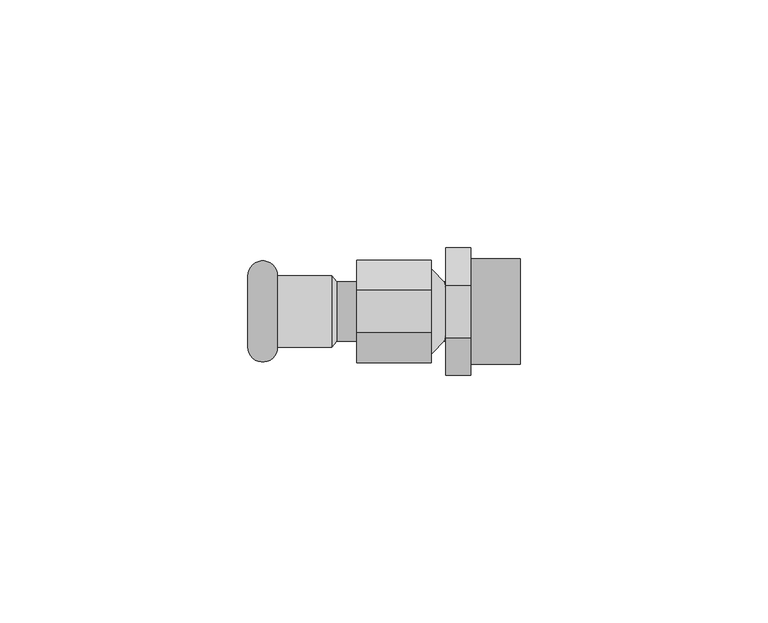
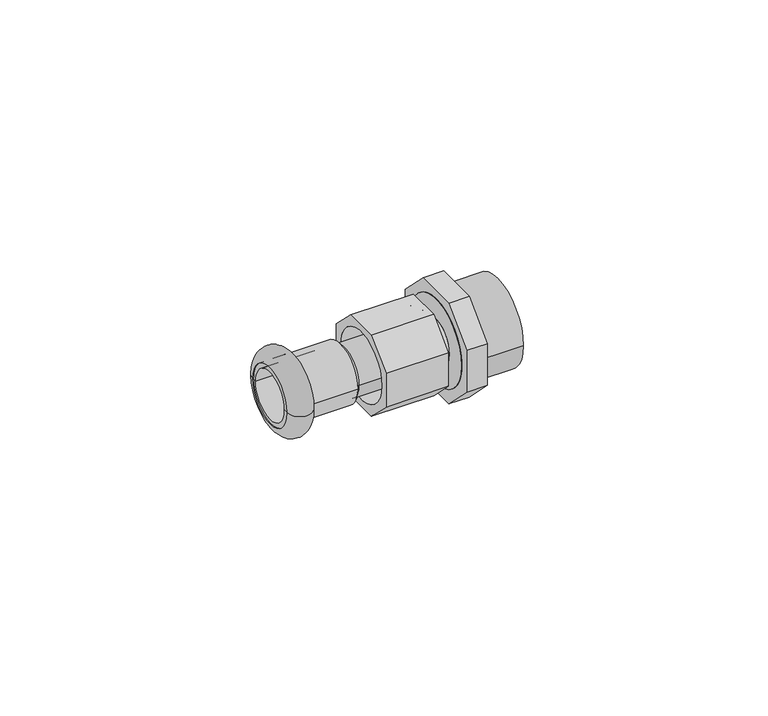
"""IFC4 building model written with IfcOpenShell, lengths in millimetres: pipe fitting geometry."""

import ifcopenshell
import ifcopenshell.guid

model = None  # the IFC model being written
_history = None  # IfcOwnerHistory: only IFC2X3 demands one
_inside = {}  # id of a spatial element -> (the spatial element, [elements in it])
_under = {}  # id of a project, library or spatial element -> (it, [spatial elements below it])
_declared = {}  # id of a project -> (the project, [libraries it declares])
_typed = {}  # id of a type object -> (the type object, [elements of that type])
_made_of = {}  # id of a material, layer set ... -> (it, [elements and type objects made of it])


def new_model(schema):
    """Start an empty IFC model of exactly this schema.

    Asked for "IFC4X3", IfcOpenShell would pick the latest addendum, in which some entities
    have other attributes; the version numbers below select the first issue.
    IFC2X3 requires an IfcOwnerHistory on every rooted entity: one is made here for all.
    """
    global model, _history
    if schema == "IFC4X3":
        model = ifcopenshell.file(schema_version=(4, 3, 0, 0))
    else:
        model = ifcopenshell.file(schema=schema)
    _inside.clear()
    _under.clear()
    _declared.clear()
    _typed.clear()
    _made_of.clear()
    _history = None
    if model.schema == "IFC2X3":
        org = make("IfcOrganization", Name="unknown")
        user = make(
            "IfcPersonAndOrganization",
            ThePerson=make("IfcPerson", FamilyName="unknown"),
            TheOrganization=org,
        )
        app = make(
            "IfcApplication",
            ApplicationDeveloper=org,
            Version="unknown",
            ApplicationFullName="unknown",
            ApplicationIdentifier="unknown",
        )
        _history = make(
            "IfcOwnerHistory",
            OwningUser=user,
            OwningApplication=app,
            ChangeAction="ADDED",
            CreationDate=0,
        )
    return model


def make(cls, **values):
    """One entity of the class cls with the attributes given. An attribute that is None is left unset."""
    return model.create_entity(
        cls, **{name: value for name, value in values.items() if value is not None}
    )


def rooted(cls, **values):
    """An entity with a GlobalId (a new one), such as an element, a storey or a relation."""
    return make(cls, GlobalId=ifcopenshell.guid.new(), OwnerHistory=_history, **values)


def si_unit(unit_type, name, prefix=None):
    """IfcSIUnit, for example si_unit("LENGTHUNIT", "METRE", prefix="MILLI")."""
    return make("IfcSIUnit", UnitType=unit_type, Prefix=prefix, Name=name)


def assignment(units):
    """IfcUnitAssignment: the units of a project."""
    return None if units is None else make("IfcUnitAssignment", Units=units)


def point(xyz):
    """IfcCartesianPoint."""
    return None if xyz is None else make("IfcCartesianPoint", Coordinates=xyz)


def direction(xyz):
    """IfcDirection."""
    return None if xyz is None else make("IfcDirection", DirectionRatios=xyz)


def frame(location, z_axis=None, x_axis=None):
    """IfcAxis2Placement3D, a coordinate frame: its origin and axes. An axis left out is left unset."""
    return make(
        "IfcAxis2Placement3D",
        Location=point(location),
        Axis=direction(z_axis),
        RefDirection=direction(x_axis),
    )


def frame_2d(location, x_axis=None):
    """IfcAxis2Placement2D, a coordinate frame in the plane: its origin and x axis."""
    return make(
        "IfcAxis2Placement2D", Location=point(location), RefDirection=direction(x_axis)
    )


def origin():
    """The frame at (0, 0, 0) with its axes left unset."""
    return frame((0.0, 0.0, 0.0))


def origin_2d():
    """The frame at (0, 0) in the plane with its x axis left unset."""
    return frame_2d((0.0, 0.0))


def place(relative_to, where):
    """IfcLocalPlacement: puts the frame where relative to a parent placement (None: the world)."""
    return make(
        "IfcLocalPlacement", PlacementRelTo=relative_to, RelativePlacement=where
    )


def context(
    kind, dimensions, precision=None, world=None, true_north=None, identifier=None
):
    """IfcGeometricRepresentationContext, for example the 3D "Model" context."""
    return make(
        "IfcGeometricRepresentationContext",
        ContextIdentifier=identifier,
        ContextType=kind,
        CoordinateSpaceDimension=dimensions,
        Precision=precision,
        WorldCoordinateSystem=world,
        TrueNorth=true_north,
    )


def project(units=None, contexts=None):
    """IfcProject with its units and contexts."""
    return rooted(
        "IfcProject",
        Name="project",
        RepresentationContexts=contexts,
        UnitsInContext=assignment(units),
    )


def spatial(cls, under=None, at=None, **own):
    """A site, building, storey or space (cls), placed at a placement, below another one or the project."""
    s = rooted(cls, ObjectPlacement=at, **own)
    if under is not None:
        _under.setdefault(under.id(), (under, []))[1].append(s)
    return s


def polyline(points):
    """IfcPolyline through the points."""
    return make("IfcPolyline", Points=[point(p) for p in points])


def circle_curve(where, radius):
    """IfcCircle in the frame where."""
    return make("IfcCircle", Position=where, Radius=radius)


def ellipse_curve(where, semi_axis1, semi_axis2):
    """IfcEllipse in the frame where."""
    return make(
        "IfcEllipse", Position=where, SemiAxis1=semi_axis1, SemiAxis2=semi_axis2
    )


def trimmed(basis, trim1, trim2, sense, master):
    """IfcTrimmedCurve: the piece of a basis curve between two trims."""
    return make(
        "IfcTrimmedCurve",
        BasisCurve=basis,
        Trim1=trim1,
        Trim2=trim2,
        SenseAgreement=sense,
        MasterRepresentation=master,
    )


def segment(curve, same_sense, transition):
    """IfcCompositeCurveSegment."""
    return make(
        "IfcCompositeCurveSegment",
        Transition=transition,
        SameSense=same_sense,
        ParentCurve=curve,
    )


def composite_curve(segments, self_intersect=None):
    """IfcCompositeCurve: segments joined end to end."""
    return make("IfcCompositeCurve", Segments=segments, SelfIntersect=self_intersect)


def outline(outer, holes=None, kind="AREA"):
    """IfcArbitraryClosedProfileDef: a profile drawn as a closed curve; with holes, ...WithVoids."""
    if holes is None:
        return make("IfcArbitraryClosedProfileDef", ProfileType=kind, OuterCurve=outer)
    return make(
        "IfcArbitraryProfileDefWithVoids",
        ProfileType=kind,
        OuterCurve=outer,
        InnerCurves=holes,
    )


def extrude(swept, where, along, depth):
    """IfcExtrudedAreaSolid: the profile swept, set in the frame where, extruded along a direction by depth."""
    return make(
        "IfcExtrudedAreaSolid",
        SweptArea=swept,
        Position=where,
        ExtrudedDirection=direction(along),
        Depth=depth,
    )


def shape(context_of_items, identifier, shape_type, items):
    """IfcShapeRepresentation: the items that make up one representation, for example the "Body"."""
    return make(
        "IfcShapeRepresentation",
        ContextOfItems=context_of_items,
        RepresentationIdentifier=identifier,
        RepresentationType=shape_type,
        Items=items,
    )


def source(mapping_origin, context_of_items, identifier, shape_type, items):
    """IfcRepresentationMap: a shape defined once, which mapped items show again and again."""
    return make(
        "IfcRepresentationMap",
        MappingOrigin=mapping_origin,
        MappedRepresentation=shape(context_of_items, identifier, shape_type, items),
    )


def transform(
    local_origin,
    x_axis=None,
    y_axis=None,
    z_axis=None,
    scale=None,
    scale2=None,
    scale3=None,
    uniform=True,
):
    """IfcCartesianTransformationOperator3D, or its non-uniform kind. x_axis, y_axis, z_axis: its Axis1, 2, 3."""
    if uniform:
        return make(
            "IfcCartesianTransformationOperator3D",
            Axis1=direction(x_axis),
            Axis2=direction(y_axis),
            LocalOrigin=point(local_origin),
            Scale=scale,
            Axis3=direction(z_axis),
        )
    return make(
        "IfcCartesianTransformationOperator3DnonUniform",
        Axis1=direction(x_axis),
        Axis2=direction(y_axis),
        LocalOrigin=point(local_origin),
        Scale=scale,
        Axis3=direction(z_axis),
        Scale2=scale2,
        Scale3=scale3,
    )


def mapped(mapping_source, mapping_target):
    """IfcMappedItem: shows the shape of a source again, moved by a transform."""
    return make(
        "IfcMappedItem", MappingSource=mapping_source, MappingTarget=mapping_target
    )


def made_of(thing, what):
    """Note that an element or type object is made of a material, layer set ...; save() writes the relation."""
    if what is not None:
        _made_of.setdefault(what.id(), (what, []))[1].append(thing)
    return thing


def element(
    cls,
    number,
    at=None,
    inside=None,
    cuts=None,
    type_object=None,
    material=None,
    context=None,
    identifier="Body",
    shape_type=None,
    held_by="IfcProductDefinitionShape",
    body=None,
    shapes=None,
    **own,
):
    """One element of the class cls, such as IfcWall. Its Tag is "e" and its number.

    at: its placement. inside: the storey or other place that contains it. cuts: it is an
    opening in that element (IfcRelVoidsElement). A single representation is given by context,
    identifier, shape_type and body (its items); several are given by shapes. held_by: the class
    of the entity that holds the representations. save() writes the other relations.
    """
    e = rooted(cls, Tag="e%d" % number, ObjectPlacement=at, **own)
    if body is not None:
        shapes = [shape(context, identifier, shape_type, body)]
    if shapes is not None:
        e.Representation = make(held_by, Representations=shapes)
    if inside is not None:
        _inside.setdefault(inside.id(), (inside, []))[1].append(e)
    if cuts is not None:
        rooted(
            "IfcRelVoidsElement", RelatingBuildingElement=cuts, RelatedOpeningElement=e
        )
    if type_object is not None:
        _typed.setdefault(type_object.id(), (type_object, []))[1].append(e)
    return made_of(e, material)


def aggregate(whole, parts):
    """IfcRelAggregates: a whole, such as a stair, and the parts it consists of."""
    return rooted("IfcRelAggregates", RelatingObject=whole, RelatedObjects=parts)


def save(model, path):
    """Write the relations noted so far, then the file.

    IfcRelAggregates (storeys below a building ...), IfcRelContainedInSpatialStructure (elements
    in a storey), IfcRelDefinesByType, IfcRelAssociatesMaterial and IfcRelDeclares: one each for
    every whole, place, type object, material and project.
    """
    for whole, parts in _under.values():
        aggregate(whole, parts)
    for where, things in _inside.values():
        rooted(
            "IfcRelContainedInSpatialStructure",
            RelatedElements=things,
            RelatingStructure=where,
        )
    for kind, things in _typed.values():
        rooted("IfcRelDefinesByType", RelatedObjects=things, RelatingType=kind)
    for what, things in _made_of.values():
        rooted("IfcRelAssociatesMaterial", RelatedObjects=things, RelatingMaterial=what)
    for by, libraries in _declared.values():
        rooted("IfcRelDeclares", RelatingContext=by, RelatedDefinitions=libraries)
    model.write(path)


def plane_surface(at):
    """IfcPlane: the flat surface through the origin of the frame at, square to its z axis."""
    return make("IfcPlane", Position=at)


def cylinder_surface(at, radius):
    """IfcCylindricalSurface: all points at the distance radius from the z axis of the frame at."""
    return make("IfcCylindricalSurface", Position=at, Radius=radius)


def revolved_surface(curve, axis_point, axis_direction):
    """IfcSurfaceOfRevolution: the curve turned about the line through axis_point along axis_direction."""
    return make(
        "IfcSurfaceOfRevolution",
        SweptCurve=make("IfcArbitraryOpenProfileDef", ProfileType="CURVE", Curve=curve),
        AxisPosition=make("IfcAxis1Placement", Location=point(axis_point), Axis=direction(axis_direction)),
    )


def advanced_brep(points, edges, surfaces, faces):
    """IfcAdvancedBrep: a solid bounded by faces that lie on surfaces and meet in shared edges.

    An edge is (start, end): straight between two places in points (the first is 0);
    or (start, end, curve); or (start, end, curve, False) where it runs against its curve.
    A face is (place in surfaces, loops), or (place, loops, False) where it looks against
    its surface's normal. A loop lists edges by number (the first is 1), with a minus sign
    where the edge is run from its end to its start. The first loop is the outer one.
    """
    corners = [point(p) for p in points]
    vertices = [make("IfcVertexPoint", VertexGeometry=c) for c in corners]
    made = []
    for start, end, *more in edges:
        made.append(
            make(
                "IfcEdgeCurve",
                EdgeStart=vertices[start],
                EdgeEnd=vertices[end],
                EdgeGeometry=more[0] if more else make("IfcPolyline", Points=[corners[start], corners[end]]),
                SameSense=more[1] if len(more) > 1 else True,
            )
        )
    hull = []
    for where, loops, *sense in faces:
        bounds = []
        for j, loop in enumerate(loops):
            ring = [make("IfcOrientedEdge", EdgeElement=made[abs(k) - 1], Orientation=k > 0) for k in loop]
            bounds.append(
                make(
                    "IfcFaceOuterBound" if j == 0 else "IfcFaceBound",
                    Bound=make("IfcEdgeLoop", EdgeList=ring),
                    Orientation=True,
                )
            )
        hull.append(make("IfcAdvancedFace", Bounds=bounds, FaceSurface=surfaces[where], SameSense=sense[0] if sense else True))
    return make("IfcAdvancedBrep", Outer=make("IfcClosedShell", CfsFaces=hull))


def pipe_fitting_c629bbde(model_context):
    return source(origin(), model_context, "Body", "SolidModel", [
        advanced_brep(
        [(-7.6666667, -10.3811183, 4.3), (-7.6666667, -4.3, 10.3811183), (-7.6666667, 4.3, 10.3811183), (-7.6666667, 10.3811183, 4.3), (-7.6666667, 10.3811183, -4.3), (-7.6666667, 4.3, -10.3811183), (-7.6666667, -4.3, -10.3811183), (-7.6666667, -10.3811183, -4.3), (-7.6666667, 8.6, 0.0), (-7.6666667, -8.6, 0.0), (7.3333333, -10.3811183, 4.3), (7.3333333, -10.3811183, -4.3), (7.3333333, -4.3, -10.3811183), (7.3333333, 4.3, -10.3811183), (7.3333333, 10.3811183, -4.3), (7.3333333, 10.3811183, 4.3), (7.3333333, 4.3, 10.3811183), (7.3333333, -4.3, 10.3811183), (7.3333333, 8.6288231, 0.0), (7.3333333, -8.6288231, 0.0), (7.3333333, 8.6, 0.0), (7.3333333, -8.6, 0.0), (7.3333333, 5.6288231, 0.0), (7.3333333, -5.6288231, 0.0), (10.3333333, 5.6288231, 0.0), (10.3333333, -5.6288231, 0.0)],
        [
            (0, 1),
            (1, 2),
            (2, 3),
            (3, 4),
            (4, 5),
            (5, 6),
            (6, 7),
            (7, 0),
            (8, 9, circle_curve(frame((-7.6666667, 0.0, 0.0), z_axis=(1.0, 0.0, 0.0), x_axis=(0.0, -1.0, 0.0)), 8.6)),
            (9, 8, circle_curve(frame((-7.6666667, 0.0, 0.0), z_axis=(1.0, 0.0, 0.0), x_axis=(0.0, -1.0, 0.0)), 8.6)),
            (10, 11),
            (11, 12),
            (12, 13),
            (13, 14),
            (14, 15),
            (15, 16),
            (16, 17),
            (17, 10),
            (18, 19, circle_curve(frame((7.3333333, 0.0, 0.0), z_axis=(-1.0, 0.0, 0.0), x_axis=(0.0, -1.0, 0.0)), 8.6288231)),
            (19, 18, circle_curve(frame((7.3333333, 0.0, 0.0), z_axis=(-1.0, 0.0, 0.0), x_axis=(0.0, 1.0, 0.0)), 8.6288231)),
            (8, 20),
            (20, 21, circle_curve(frame((7.3333333, 0.0, 0.0), z_axis=(1.0, 0.0, 0.0), x_axis=(0.0, -1.0, 0.0)), 8.6)),
            (21, 9),
            (21, 20, circle_curve(frame((7.3333333, 0.0, 0.0), z_axis=(1.0, 0.0, 0.0), x_axis=(0.0, -1.0, 0.0)), 8.6)),
            (0, 10),
            (17, 1),
            (16, 2),
            (15, 3),
            (14, 4),
            (13, 5),
            (12, 6),
            (11, 7),
            (22, 23, circle_curve(frame((7.3333333, 0.0, 0.0), z_axis=(1.0, 0.0, 0.0), x_axis=(0.0, 1.0, 0.0)), 5.6288231)),
            (23, 22, circle_curve(frame((7.3333333, 0.0, 0.0), z_axis=(1.0, 0.0, 0.0), x_axis=(0.0, -1.0, 0.0)), 5.6288231)),
            (24, 25, circle_curve(frame((10.3333333, 0.0, 0.0), z_axis=(-1.0, 0.0, 0.0), x_axis=(0.0, -1.0, 0.0)), 5.6288231)),
            (25, 19),
            (18, 24),
            (23, 25),
            (24, 22),
            (25, 24, circle_curve(frame((10.3333333, 0.0, 0.0), z_axis=(-1.0, 0.0, 0.0), x_axis=(0.0, 1.0, 0.0)), 5.6288231)),
        ],
        [
            plane_surface(frame((-7.6666667, -8.6, 0.0), z_axis=(-1.0, 0.0, 0.0), x_axis=(0.0, 0.0, -1.0))),
            plane_surface(frame((7.3333333, -8.6, 0.0), z_axis=(1.0, 0.0, 0.0), x_axis=(0.0, 0.0, 1.0))),
            revolved_surface(polyline([(7.3333333, -8.6, 0.0), (-7.6666667, -8.6, 0.0)]), (7.3333333, 0.0, 0.0), (1.0, 0.0, 0.0)),
            plane_surface(frame((-7.6666667, -10.3811183, 4.3), z_axis=(0.0, -0.7071067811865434, 0.7071067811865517), x_axis=(1.0, 0.0, 0.0))),
            plane_surface(frame((-7.6666667, -4.3, 10.3811183), z_axis=(0.0, 0.0, 1.0), x_axis=(1.0, 0.0, 0.0))),
            plane_surface(frame((-7.6666667, 4.3, 10.3811183), z_axis=(0.0, 0.7071067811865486, 0.7071067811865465), x_axis=(1.0, 0.0, 0.0))),
            plane_surface(frame((-7.6666667, 10.3811183, 4.3), z_axis=(0.0, 1.0, 0.0), x_axis=(1.0, 0.0, 0.0))),
            plane_surface(frame((-7.6666667, 10.3811183, -4.3), z_axis=(0.0, 0.7071067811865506, -0.7071067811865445), x_axis=(1.0, 0.0, 0.0))),
            plane_surface(frame((-7.6666667, 4.3, -10.3811183), z_axis=(0.0, 0.0, -1.0), x_axis=(1.0, 0.0, 0.0))),
            plane_surface(frame((-7.6666667, -4.3, -10.3811183), z_axis=(0.0, -0.7071067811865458, -0.7071067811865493), x_axis=(1.0, 0.0, 0.0))),
            plane_surface(frame((-7.6666667, -10.3811183, -4.3), z_axis=(0.0, -1.0, 0.0), x_axis=(1.0, 0.0, 0.0))),
            plane_surface(frame((7.3333333, 0.0, 0.0), z_axis=(-1.0, 0.0, 0.0), x_axis=(0.0, 1.0, 0.0))),
            revolved_surface(polyline([(7.3333333, -8.6288231, 0.0), (10.3333333, -5.6288231, 0.0)]), (7.3333333, 0.0, 0.0), (1.0, 0.0, 0.0)),
            revolved_surface(polyline([(10.3333333, -5.6288231, 0.0), (7.3333333, -5.6288231, 0.0)]), (7.3333333, 0.0, 0.0), (1.0, 0.0, 0.0)),
            revolved_surface(polyline([(7.3333333, 8.6288231, 0.0), (10.3333333, 5.6288231, 0.0)]), (7.3333333, 0.0, 0.0), (1.0, 0.0, 0.0)),
            revolved_surface(polyline([(10.3333333, 5.6288231, 0.0), (7.3333333, 5.6288231, 0.0)]), (7.3333333, 0.0, 0.0), (1.0, 0.0, 0.0)),
        ],
        [
            (0, [[1, 2, 3, 4, 5, 6, 7, 8], [9, 10]]),
            (1, [[11, 12, 13, 14, 15, 16, 17, 18], [19, 20]]),
            (2, [[-9, 21, 22, 23]]),
            (2, [[-10, -23, 24, -21]]),
            (3, [[-1, 25, -18, 26]]),
            (4, [[-2, -26, -17, 27]]),
            (5, [[-3, -27, -16, 28]]),
            (6, [[-4, -28, -15, 29]]),
            (7, [[-5, -29, -14, 30]]),
            (8, [[-6, -30, -13, 31]]),
            (9, [[-7, -31, -12, 32]]),
            (10, [[-8, -32, -11, -25]]),
            (11, [[-22, -24], [33, 34]]),
            (12, [[35, 36, -19, 37]]),
            (13, [[-34, 38, -35, 39]]),
            (14, [[-36, 40, -37, -20]]),
            (15, [[-33, -39, -40, -38]]),
        ],
    ),
        extrude(outline(composite_curve([segment(trimmed(circle_curve(origin_2d(), 10.65), [point((-10.65, 0.0))], [point((10.65, 0.0))], False, "CARTESIAN"), True, "CONTINUOUS"), segment(trimmed(circle_curve(origin_2d(), 10.65), [point((10.65, 0.0))], [point((-10.65, 0.0))], False, "CARTESIAN"), True, "CONTINUOUS")], self_intersect=False)), frame((10.3333333, 0.0, 0.0), z_axis=(1.0, 0.0, 0.0), x_axis=(0.0, 1.0, 0.0)), (0.0, 0.0, 1.0), 15.0),
        extrude(outline(polyline([(12.8556872, 5.325), (12.8556872, -5.325), (5.325, -12.8556872), (-5.325, -12.8556872), (-12.8556872, -5.325), (-12.8556872, 5.325), (-5.325, 12.8556872), (5.325, 12.8556872), (12.8556872, 5.325)]), holes=[composite_curve([segment(trimmed(circle_curve(origin_2d(), 10.65), [point((-10.65, 0.0))], [point((10.65, 0.0))], True, "CARTESIAN"), True, "CONTINUOUS"), segment(trimmed(circle_curve(origin_2d(), 10.65), [point((10.65, 0.0))], [point((-10.65, 0.0))], True, "CARTESIAN"), True, "CONTINUOUS")], self_intersect=False)]), frame((10.3333333, 0.0, 0.0), z_axis=(1.0, 0.0, 0.0), x_axis=(0.0, 1.0, 0.0)), (0.0, 0.0, 1.0), 5.0),
        advanced_brep(
        [(-29.6666667, 7.2, 0.0), (-29.6666667, -7.2, 0.0), (-23.665374, -7.2, 0.0), (-23.665374, 7.2, 0.0)],
        [
            (0, 1, circle_curve(frame((-29.6666667, 0.0, 0.0), z_axis=(-1.0, 0.0, 0.0), x_axis=(0.0, -1.0, 0.0)), 7.2)),
            (1, 2),
            (2, 3, circle_curve(frame((-23.665374, 0.0, 0.0), z_axis=(1.0, 0.0, 0.0), x_axis=(0.0, -1.0, 0.0)), 7.2)),
            (3, 0),
            (1, 0, circle_curve(frame((-29.6666667, 0.0, 0.0), z_axis=(-1.0, 0.0, 0.0), x_axis=(0.0, -1.0, 0.0)), 7.2)),
            (3, 2, circle_curve(frame((-23.665374, 0.0, 0.0), z_axis=(1.0, 0.0, 0.0), x_axis=(0.0, -1.0, 0.0)), 7.2)),
            (2, 1, circle_curve(frame((-26.6660203, -7.2, 0.0), z_axis=(0.0, 0.0, -1.0), x_axis=(-1.0, 0.0, 0.0)), 3.0006464)),
            (0, 3, circle_curve(frame((-26.6660203, 7.2, 0.0), z_axis=(0.0, 0.0, -1.0), x_axis=(-1.0, 0.0, 0.0)), 3.0006464)),
        ],
        [
            revolved_surface(polyline([(-23.665374, -7.2, 0.0), (-29.6666667, -7.2, 0.0)]), (-12.6666667, 0.0, 0.0), (1.0, 0.0, 0.0)),
            revolved_surface(trimmed(ellipse_curve(frame((-26.6660203, -7.2, 0.0), z_axis=(0.0, 0.0, 1.0), x_axis=(-1.0, 0.0, 0.0)), 3.0006464, 3.0006464), [point((-29.6666667, -7.2, 0.0))], [point((-23.665374, -7.2, 0.0))], True, "CARTESIAN"), (-12.6666667, 0.0, 0.0), (1.0, 0.0, 0.0)),
        ],
        [
            (0, [[1, 2, 3, 4]]),
            (0, [[5, -4, 6, -2]]),
            (1, [[-3, 7, -1, 8]]),
            (1, [[-6, -8, -5, -7]]),
        ],
    ),
        advanced_brep(
        [(-29.6666667, 6.0, 0.0), (-29.6666667, -6.0, 0.0), (-11.6666667, -6.0, 0.0), (-11.6666667, 6.0, 0.0), (-29.6666667, 7.2, 0.0), (-29.6666667, -7.2, 0.0), (-12.6666667, 7.2, 0.0), (-12.6666667, -7.2, 0.0)],
        [
            (0, 1, circle_curve(frame((-29.6666667, 0.0, 0.0), z_axis=(-1.0, 0.0, 0.0), x_axis=(0.0, -1.0, 0.0)), 6.0)),
            (1, 2),
            (2, 3, circle_curve(frame((-11.6666667, 0.0, 0.0), z_axis=(1.0, 0.0, 0.0), x_axis=(0.0, -1.0, 0.0)), 6.0)),
            (3, 0),
            (1, 0, circle_curve(frame((-29.6666667, 0.0, 0.0), z_axis=(-1.0, 0.0, 0.0), x_axis=(0.0, -1.0, 0.0)), 6.0)),
            (3, 2, circle_curve(frame((-11.6666667, 0.0, 0.0), z_axis=(1.0, 0.0, 0.0), x_axis=(0.0, -1.0, 0.0)), 6.0)),
            (4, 5, circle_curve(frame((-29.6666667, 0.0, 0.0), z_axis=(-1.0, 0.0, 0.0), x_axis=(0.0, -1.0, 0.0)), 7.2)),
            (5, 1),
            (0, 4),
            (5, 4, circle_curve(frame((-29.6666667, 0.0, 0.0), z_axis=(-1.0, 0.0, 0.0), x_axis=(0.0, -1.0, 0.0)), 7.2)),
            (6, 7, circle_curve(frame((-12.6666667, 0.0, 0.0), z_axis=(-1.0, 0.0, 0.0), x_axis=(0.0, -1.0, 0.0)), 7.2)),
            (7, 5),
            (4, 6),
            (7, 6, circle_curve(frame((-12.6666667, 0.0, 0.0), z_axis=(-1.0, 0.0, 0.0), x_axis=(0.0, -1.0, 0.0)), 7.2)),
            (2, 7),
            (6, 3),
        ],
        [
            revolved_surface(polyline([(-11.6666667, -6.0, 0.0), (-29.6666667, -6.0, 0.0)]), (-12.6666667, 0.0, 0.0), (1.0, 0.0, 0.0)),
            plane_surface(frame((-29.6666667, 0.0, 0.0), z_axis=(-1.0, 0.0, 0.0), x_axis=(0.0, -1.0, 0.0))),
            cylinder_surface(frame((-12.6666667, 0.0, 0.0), z_axis=(1.0, 0.0, 0.0), x_axis=(0.0, -1.0, 0.0)), 7.2),
            revolved_surface(polyline([(-12.6666667, -7.2, 0.0), (-11.6666667, -6.0, 0.0)]), (-12.6666667, 0.0, 0.0), (1.0, 0.0, 0.0)),
        ],
        [
            (0, [[1, 2, 3, 4]]),
            (0, [[5, -4, 6, -2]]),
            (1, [[7, 8, -1, 9]]),
            (1, [[10, -9, -5, -8]]),
            (2, [[11, 12, -7, 13]]),
            (2, [[14, -13, -10, -12]]),
            (3, [[-3, 15, -11, 16]]),
            (3, [[-6, -16, -14, -15]]),
        ],
    ),
        extrude(outline(composite_curve([segment(trimmed(circle_curve(origin_2d(), 6.0), [point((-6.0, 0.0))], [point((6.0, 0.0))], False, "CARTESIAN"), True, "CONTINUOUS"), segment(trimmed(circle_curve(origin_2d(), 6.0), [point((6.0, 0.0))], [point((-6.0, 0.0))], False, "CARTESIAN"), True, "CONTINUOUS")], self_intersect=False)), frame((-12.6666667, 0.0, 0.0), z_axis=(1.0, 0.0, 0.0), x_axis=(0.0, 1.0, 0.0)), (0.0, 0.0, 1.0), 38.0),
    ])


if __name__ == "__main__":
    model = new_model("IFC4")
    model_context = context("Model", 3, world=origin())
    ifc_project = project(units=[si_unit("LENGTHUNIT", "METRE", prefix="MILLI")], contexts=[model_context])
    site = spatial("IfcSite", under=ifc_project)
    building = spatial("IfcBuilding", under=site)
    placement = place(None, origin())
    pipe_fitting_shape = pipe_fitting_c629bbde(model_context)
    element("IfcPipeFitting", 1, ObjectType="NLRS_50_PIF_UN_Mapress koper 3-d overgangskoppeling met buitendraad_geb : DN10-50-R2\" / d12-54-R2\"", at=placement, inside=building, context=model_context, shape_type="MappedRepresentation", body=[
        mapped(pipe_fitting_shape, transform((0.0, 0.0, 0.0), x_axis=(1.0, 0.0, 0.0), y_axis=(0.0, 1.0, 0.0), z_axis=(0.0, 0.0, 1.0))),
    ])
    save(model, "model.ifc")
